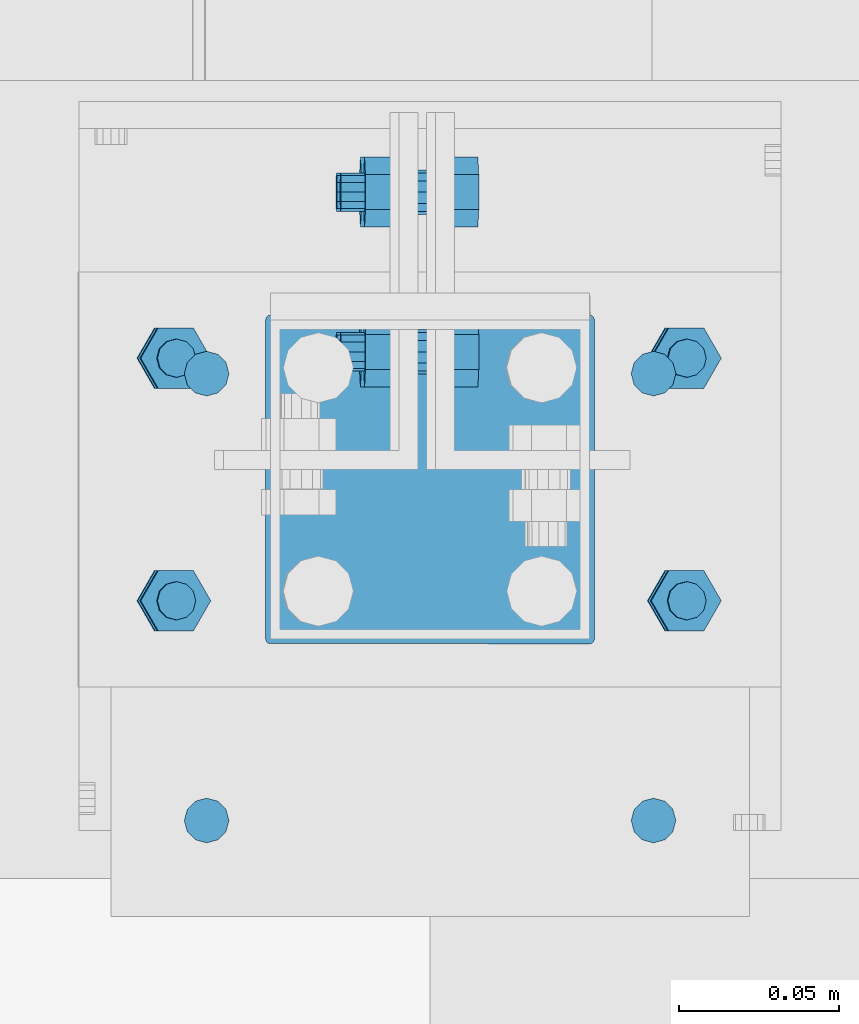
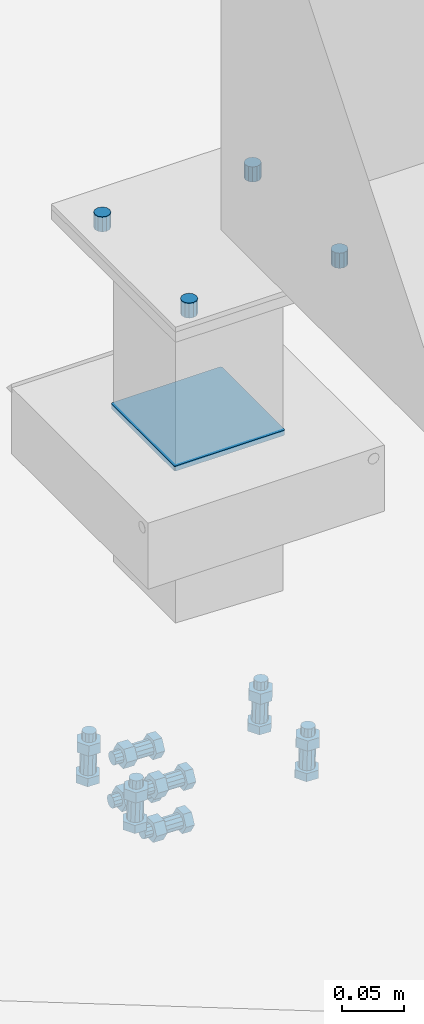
# One storey, part 368 of 3134: 4 mechanical fasteners, 3 elements without a shape of their own.
"""IFC2X3 building model written with IfcOpenShell, lengths in millimetres."""

from ifc_helpers import new_model, si_unit, frame, origin_with_axes, place, context, subcontext, project, spatial, faceted_brep, source, transform, mapped, material, type_object, element, aggregate, save


model = new_model("IFC2X3")

# Units and contexts
model_context = context("Model", 3, precision=1e-05, world=origin_with_axes())
body_context = subcontext(model_context, "Body", "Model", "MODEL_VIEW")
ifc_project = project(units=[si_unit("LENGTHUNIT", "METRE", prefix="MILLI"), si_unit("AREAUNIT", "SQUARE_METRE"), si_unit("VOLUMEUNIT", "CUBIC_METRE"), si_unit("MASSUNIT", "GRAM", prefix="KILO"), si_unit("TIMEUNIT", "SECOND"), si_unit("PLANEANGLEUNIT", "RADIAN"), si_unit("SOLIDANGLEUNIT", "STERADIAN"), si_unit("THERMODYNAMICTEMPERATUREUNIT", "DEGREE_CELSIUS"), si_unit("LUMINOUSINTENSITYUNIT", "LUMEN")], contexts=[model_context])

# Site, building, storey
site_placement = place(None, origin_with_axes())
site = spatial("IfcSite", under=ifc_project, at=site_placement, CompositionType="ELEMENT")
building_placement = place(site_placement, origin_with_axes())
building = spatial("IfcBuilding", under=site, at=building_placement, Name="Undefined", CompositionType="ELEMENT")
storey_placement = place(building_placement, origin_with_axes())
storey = spatial("IfcBuildingStorey", under=building, at=storey_placement, Name="Undefined", CompositionType="ELEMENT", Elevation=0.0)

# Assembly, mechanical fastener
assembly_1_placement = place(storey_placement, origin_with_axes())
assembly_1 = element("IfcElementAssembly", 1, at=assembly_1_placement, inside=storey, AssemblyPlace="NOTDEFINED", PredefinedType="RIGID_FRAME")
ifc_material_1 = material(Name="6.8")
mechanical_fastener_type = type_object("IfcMechanicalFastenerType", Name="Bolt assembly")
shared_shape_1 = source(origin_with_axes(), body_context, "Body", "Brep", [
    faceted_brep([(51.5, 1.36424205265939e-12, 50.0), (51.3858192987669, 1.36424205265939e-12, 50.5740251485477), (51.0606601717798, 1.36424205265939e-12, 51.0606601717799), (50.5740251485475, 1.36424205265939e-12, 51.385819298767), (-50.0000000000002, 1.36424205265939e-12, 51.5), (-50.7500000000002, 1.36424205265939e-12, 51.2990381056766), (-51.2990381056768, 1.36424205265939e-12, 50.7499999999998), (-51.5, 1.36424205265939e-12, 49.9999999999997), (-51.5, 1.36424205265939e-12, -50.0000000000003), (-51.2990381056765, 1.36424205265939e-12, -50.7500000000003), (-50.7499999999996, 1.36424205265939e-12, -51.2990381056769), (-49.9999999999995, 1.36424205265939e-12, -51.5), (50.0000000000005, 1.36424205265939e-12, -51.5), (50.7500000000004, 1.36424205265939e-12, -51.2990381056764), (51.2990381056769, 1.36424205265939e-12, -50.7499999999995), (51.5, 1.36424205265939e-12, -49.9999999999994), (51.5, 5.10000000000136, -49.9999999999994), (51.2990381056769, 5.10000000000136, -50.7499999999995), (50.7500000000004, 5.10000000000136, -51.2990381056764), (50.0000000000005, 5.10000000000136, -51.5), (-49.9999999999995, 5.10000000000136, -51.5), (-50.7499999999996, 5.10000000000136, -51.2990381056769), (-51.2990381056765, 5.10000000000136, -50.7500000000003), (-51.5, 5.10000000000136, -50.0000000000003), (-51.5, 5.10000000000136, 49.9999999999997), (-51.2990381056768, 5.10000000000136, 50.7499999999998), (-50.7500000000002, 5.10000000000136, 51.2990381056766), (-50.0000000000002, 5.10000000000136, 51.5), (50.5740251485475, 5.10000000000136, 51.385819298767), (51.0606601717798, 5.10000000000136, 51.0606601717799), (51.3858192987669, 5.10000000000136, 50.5740251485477), (51.5, 5.10000000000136, 50.0)], [[[0, 1, 2, 3, 4, 5, 6, 7, 8, 9, 10, 11, 12, 13, 14, 15]], [[16, 17, 18, 19, 20, 21, 22, 23, 24, 25, 26, 27, 28, 29, 30, 31]], [[0, 31, 30, 1]], [[1, 30, 29, 2]], [[2, 29, 28, 3]], [[3, 28, 27, 4]], [[4, 27, 26, 5]], [[5, 26, 25, 6]], [[6, 25, 24, 7]], [[7, 24, 23, 8]], [[8, 23, 22, 9]], [[9, 22, 21, 10]], [[10, 21, 20, 11]], [[11, 20, 19, 12]], [[12, 19, 18, 13]], [[13, 18, 17, 14]], [[14, 17, 16, 15]], [[15, 16, 31, 0]]]),
])
mechanical_fastener_1_placement = place(assembly_1_placement, frame((73830.0, 19800.0, 4274.22), z_axis=(0.0, -1.0, 0.0), x_axis=(-1.0, 0.0, 0.0)))
mechanical_fastener_1 = element("IfcMechanicalFastener", 2, at=mechanical_fastener_1_placement, type_object=mechanical_fastener_type, material=ifc_material_1, Name="Bolt assembly", NominalDiameter=10.0, NominalLength=5.0, context=body_context, shape_type="MappedRepresentation", body=[
    mapped(shared_shape_1, transform((0.0, 0.0, 0.0))),
])

assembly_2_placement = place(storey_placement, origin_with_axes())
assembly_2 = element("IfcElementAssembly", 3, at=assembly_2_placement, inside=storey, AssemblyPlace="NOTDEFINED", PredefinedType="RIGID_FRAME")
ifc_material_2 = material(Name="8.8")
shared_shape_2 = source(origin_with_axes(), body_context, "Body", "Brep", [
    faceted_brep([(10.9696551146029, -14.250187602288, 0.0), (5.48482755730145, -14.250187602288, 9.5), (-5.48482755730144, -14.250187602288, 9.5), (-10.9696551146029, -14.250187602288, 1.34339530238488e-15), (-5.48482755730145, -14.250187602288, -9.5), (5.48482755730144, -14.250187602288, -9.50000000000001), (5.48482755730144, -6.25018760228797, -9.50000000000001), (-5.48482755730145, -6.25018760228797, -9.5), (-10.9696551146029, -6.25018760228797, 1.34339530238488e-15), (-5.48482755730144, -6.25018760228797, 9.5), (5.48482755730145, -6.25018760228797, 9.5), (10.9696551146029, -6.25018760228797, 0.0), (6.0, -6.25018760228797, 0.0), (5.19615242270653, -6.25018760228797, 3.00000000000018), (2.99999999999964, -6.25018760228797, 5.19615242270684), (-6.21801588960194e-13, -6.25018760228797, 6.0), (-3.00000000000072, -6.25018760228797, 5.19615242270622), (-5.19615242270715, -6.25018760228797, 2.9999999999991), (-6.0, -6.25018760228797, -1.24360317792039e-12), (-5.19615242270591, -6.25018760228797, -3.00000000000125), (-2.99999999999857, -6.25018760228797, -5.19615242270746), (1.85874342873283e-12, -6.25018760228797, -6.0), (3.00000000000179, -6.25018760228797, -5.1961524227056), (5.19615242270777, -6.25018760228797, -2.99999999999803), (5.19615242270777, 28.749812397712, -2.99999999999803), (3.00000000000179, 28.749812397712, -5.1961524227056), (1.85874342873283e-12, 28.749812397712, -6.0), (-2.99999999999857, 28.749812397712, -5.19615242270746), (-5.19615242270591, 28.749812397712, -3.00000000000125), (-6.0, 28.749812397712, -1.24360317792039e-12), (-5.19615242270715, 28.749812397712, 2.9999999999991), (-3.00000000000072, 28.749812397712, 5.19615242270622), (-6.21801588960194e-13, 28.749812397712, 6.0), (2.99999999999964, 28.749812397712, 5.19615242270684), (5.19615242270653, 28.749812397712, 3.00000000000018), (6.0, 28.749812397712, 0.0), (10.9696551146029, 11.2575524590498, 0.0), (5.48482755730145, 11.2575524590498, 9.5), (-5.48482755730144, 11.2575524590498, 9.5), (-10.9696551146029, 11.2575524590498, 1.34339530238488e-15), (-5.48482755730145, 11.2575524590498, -9.5), (5.48482755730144, 11.2575524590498, -9.50000000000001), (5.48482755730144, 21.2575524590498, -9.50000000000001), (-5.48482755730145, 21.2575524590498, -9.5), (-10.9696551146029, 21.2575524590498, 1.34339530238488e-15), (-5.48482755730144, 21.2575524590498, 9.5), (5.48482755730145, 21.2575524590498, 9.5), (10.9696551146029, 21.2575524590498, 0.0)], [[[0, 1, 2, 3, 4, 5]], [[6, 7, 8, 9, 10, 11]], [[0, 11, 10, 1]], [[1, 10, 9, 2]], [[2, 9, 8, 3]], [[3, 8, 7, 4]], [[4, 7, 6, 5]], [[5, 6, 11, 0]], [[12, 13, 14, 15, 16, 17, 18, 19, 20, 21, 22, 23]], [[24, 25, 26, 27, 28, 29, 30, 31, 32, 33, 34, 35]], [[12, 35, 34, 13]], [[13, 34, 33, 14]], [[14, 33, 32, 15]], [[15, 32, 31, 16]], [[16, 31, 30, 17]], [[17, 30, 29, 18]], [[18, 29, 28, 19]], [[19, 28, 27, 20]], [[20, 27, 26, 21]], [[21, 26, 25, 22]], [[22, 25, 24, 23]], [[23, 24, 35, 12]], [[36, 37, 38, 39, 40, 41]], [[42, 43, 44, 45, 46, 47]], [[36, 47, 46, 37]], [[37, 46, 45, 38]], [[38, 45, 44, 39]], [[39, 44, 43, 40]], [[40, 43, 42, 41]], [[41, 42, 47, 36]]]),
    faceted_brep([(7.0, 5.15755245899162, 0.0), (6.06217782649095, 5.15755245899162, 3.50000000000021), (3.49999999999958, 5.15755245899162, 6.06217782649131), (-7.25435187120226e-13, 5.15755245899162, 7.0), (-3.50000000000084, 5.15755245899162, 6.06217782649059), (-6.06217782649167, 5.15755245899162, 3.49999999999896), (-7.0, 5.15755245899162, -1.45087037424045e-12), (-6.06217782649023, 5.15755245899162, -3.50000000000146), (-3.49999999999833, 5.15755245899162, -6.06217782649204), (2.1685340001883e-12, 5.15755245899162, -7.0), (3.50000000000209, 5.15755245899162, -6.06217782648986), (6.0621778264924, 5.15755245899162, -3.4999999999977), (6.0621778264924, 11.2575524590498, -3.4999999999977), (3.50000000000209, 11.2575524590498, -6.06217782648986), (2.1685340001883e-12, 11.2575524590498, -7.0), (-3.49999999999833, 11.2575524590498, -6.06217782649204), (-6.06217782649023, 11.2575524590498, -3.50000000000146), (-7.0, 11.2575524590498, -1.45087037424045e-12), (-6.06217782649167, 11.2575524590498, 3.49999999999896), (-3.50000000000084, 11.2575524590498, 6.06217782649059), (-7.25435187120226e-13, 11.2575524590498, 7.0), (3.49999999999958, 11.2575524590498, 6.06217782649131), (6.06217782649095, 11.2575524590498, 3.50000000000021), (7.0, 11.2575524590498, 0.0), (7.0, -6.15018760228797, 0.0), (6.06217782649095, -6.15018760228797, 3.50000000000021), (3.49999999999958, -6.15018760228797, 6.06217782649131), (-7.25435187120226e-13, -6.15018760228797, 7.0), (-3.50000000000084, -6.15018760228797, 6.06217782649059), (-6.06217782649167, -6.15018760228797, 3.49999999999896), (-7.0, -6.15018760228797, -1.45087037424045e-12), (-6.06217782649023, -6.15018760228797, -3.50000000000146), (-3.49999999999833, -6.15018760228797, -6.06217782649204), (2.1685340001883e-12, -6.15018760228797, -7.0), (3.50000000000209, -6.15018760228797, -6.06217782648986), (6.0621778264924, -6.15018760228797, -3.4999999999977), (6.0621778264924, -0.150187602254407, -3.4999999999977), (3.50000000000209, -0.150187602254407, -6.06217782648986), (2.1685340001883e-12, -0.150187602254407, -7.0), (-3.49999999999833, -0.150187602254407, -6.06217782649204), (-6.06217782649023, -0.150187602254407, -3.50000000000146), (-7.0, -0.150187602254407, -1.45087037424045e-12), (-6.06217782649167, -0.150187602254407, 3.49999999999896), (-3.50000000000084, -0.150187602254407, 6.06217782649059), (-7.25435187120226e-13, -0.150187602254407, 7.0), (3.49999999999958, -0.150187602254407, 6.06217782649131), (6.06217782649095, -0.150187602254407, 3.50000000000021), (7.0, -0.150187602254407, 0.0), (7.0, -0.244833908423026, 0.0), (6.06217782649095, -0.244833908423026, 3.50000000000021), (3.49999999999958, -0.244833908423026, 6.06217782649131), (-7.25435187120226e-13, -0.244833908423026, 7.0), (-3.50000000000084, -0.244833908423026, 6.06217782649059), (-6.06217782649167, -0.244833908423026, 3.49999999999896), (-7.0, -0.244833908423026, -1.45087037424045e-12), (-6.06217782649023, -0.244833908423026, -3.50000000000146), (-3.49999999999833, -0.244833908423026, -6.06217782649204), (2.1685340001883e-12, -0.244833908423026, -7.0), (3.50000000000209, -0.244833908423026, -6.06217782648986), (6.0621778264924, -0.244833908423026, -3.4999999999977), (6.0621778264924, 5.25516609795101, -3.4999999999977), (3.50000000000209, 5.25516609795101, -6.06217782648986), (2.1685340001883e-12, 5.25516609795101, -7.0), (-3.49999999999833, 5.25516609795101, -6.06217782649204), (-6.06217782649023, 5.25516609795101, -3.50000000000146), (-7.0, 5.25516609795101, -1.45087037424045e-12), (-6.06217782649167, 5.25516609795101, 3.49999999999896), (-3.50000000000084, 5.25516609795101, 6.06217782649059), (-7.25435187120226e-13, 5.25516609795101, 7.0), (3.49999999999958, 5.25516609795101, 6.06217782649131), (6.06217782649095, 5.25516609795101, 3.50000000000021), (7.0, 5.25516609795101, 0.0)], [[[0, 1, 2, 3, 4, 5, 6, 7, 8, 9, 10, 11]], [[12, 13, 14, 15, 16, 17, 18, 19, 20, 21, 22, 23]], [[0, 23, 22, 1]], [[1, 22, 21, 2]], [[2, 21, 20, 3]], [[3, 20, 19, 4]], [[4, 19, 18, 5]], [[5, 18, 17, 6]], [[6, 17, 16, 7]], [[7, 16, 15, 8]], [[8, 15, 14, 9]], [[9, 14, 13, 10]], [[10, 13, 12, 11]], [[11, 12, 23, 0]], [[24, 25, 26, 27, 28, 29, 30, 31, 32, 33, 34, 35]], [[36, 37, 38, 39, 40, 41, 42, 43, 44, 45, 46, 47]], [[24, 47, 46, 25]], [[25, 46, 45, 26]], [[26, 45, 44, 27]], [[27, 44, 43, 28]], [[28, 43, 42, 29]], [[29, 42, 41, 30]], [[30, 41, 40, 31]], [[31, 40, 39, 32]], [[32, 39, 38, 33]], [[33, 38, 37, 34]], [[34, 37, 36, 35]], [[35, 36, 47, 24]], [[48, 49, 50, 51, 52, 53, 54, 55, 56, 57, 58, 59]], [[60, 61, 62, 63, 64, 65, 66, 67, 68, 69, 70, 71]], [[48, 71, 70, 49]], [[49, 70, 69, 50]], [[50, 69, 68, 51]], [[51, 68, 67, 52]], [[52, 67, 66, 53]], [[53, 66, 65, 54]], [[54, 65, 64, 55]], [[55, 64, 63, 56]], [[56, 63, 62, 57]], [[57, 62, 61, 58]], [[58, 61, 60, 59]], [[59, 60, 71, 48]]]),
])
mechanical_fastener_2_placement = place(assembly_2_placement, frame((73830.0752897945, 19840.01, 3871.04754926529), z_axis=(0.0309396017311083, 0.0, 0.999521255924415), x_axis=(0.0, 1.0, 0.0)))
mechanical_fastener_2 = element("IfcMechanicalFastener", 4, at=mechanical_fastener_2_placement, type_object=mechanical_fastener_type, material=ifc_material_2, Name="Bolt assembly", NominalDiameter=12.0, NominalLength=35.0, context=body_context, shape_type="MappedRepresentation", body=[
    mapped(shared_shape_2, transform((0.0, 0.0, -21.0))),
    mapped(shared_shape_2, transform((50.0, -1.01863406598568e-10, -20.9999999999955))),
    mapped(shared_shape_2, transform((0.0, 0.0, 21.0))),
    mapped(shared_shape_2, transform((50.0, 1.30967237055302e-10, 20.9999999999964))),
])
aggregate(assembly_2, [mechanical_fastener_2])

# Mechanical fastener
shared_shape_3 = source(origin_with_axes(), body_context, "Body", "Brep", [
    faceted_brep([(7.0, -4.90000000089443, 0.0), (6.06217782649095, -4.90000000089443, 3.50000000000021), (3.49999999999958, -4.90000000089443, 6.06217782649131), (-7.25435187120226e-13, -4.90000000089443, 7.0), (-3.50000000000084, -4.90000000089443, 6.06217782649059), (-6.06217782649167, -4.90000000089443, 3.49999999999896), (-7.0, -4.90000000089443, -1.45087037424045e-12), (-6.06217782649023, -4.90000000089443, -3.50000000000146), (-3.49999999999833, -4.90000000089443, -6.06217782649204), (2.1685340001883e-12, -4.90000000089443, -7.0), (3.50000000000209, -4.90000000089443, -6.06217782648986), (6.0621778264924, -4.90000000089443, -3.4999999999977), (6.0621778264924, 0.0999999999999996, -3.4999999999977), (3.50000000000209, 0.0999999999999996, -6.06217782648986), (2.1685340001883e-12, 0.0999999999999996, -7.0), (-3.49999999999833, 0.0999999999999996, -6.06217782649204), (-6.06217782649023, 0.0999999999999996, -3.50000000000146), (-7.0, 0.0999999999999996, -1.45087037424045e-12), (-6.06217782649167, 0.0999999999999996, 3.49999999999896), (-3.50000000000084, 0.0999999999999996, 6.06217782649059), (-7.25435187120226e-13, 0.0999999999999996, 7.0), (3.49999999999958, 0.0999999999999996, 6.06217782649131), (6.06217782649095, 0.0999999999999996, 3.50000000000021), (7.0, 0.0999999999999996, 0.0), (7.0, -0.1, 0.0), (6.06217782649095, -0.1, 3.50000000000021), (3.49999999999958, -0.1, 6.06217782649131), (-7.25435187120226e-13, -0.1, 7.0), (-3.50000000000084, -0.1, 6.06217782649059), (-6.06217782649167, -0.1, 3.49999999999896), (-7.0, -0.1, -1.45087037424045e-12), (-6.06217782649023, -0.1, -3.50000000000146), (-3.49999999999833, -0.1, -6.06217782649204), (2.1685340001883e-12, -0.1, -7.0), (3.50000000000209, -0.1, -6.06217782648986), (6.0621778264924, -0.1, -3.4999999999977), (6.0621778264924, 10.0, -3.4999999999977), (3.50000000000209, 10.0, -6.06217782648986), (2.1685340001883e-12, 10.0, -7.0), (-3.49999999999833, 10.0, -6.06217782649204), (-6.06217782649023, 10.0, -3.50000000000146), (-7.0, 10.0, -1.45087037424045e-12), (-6.06217782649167, 10.0, 3.49999999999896), (-3.50000000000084, 10.0, 6.06217782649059), (-7.25435187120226e-13, 10.0, 7.0), (3.49999999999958, 10.0, 6.06217782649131), (6.06217782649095, 10.0, 3.50000000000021), (7.0, 10.0, 0.0)], [[[0, 1, 2, 3, 4, 5, 6, 7, 8, 9, 10, 11]], [[12, 13, 14, 15, 16, 17, 18, 19, 20, 21, 22, 23]], [[0, 23, 22, 1]], [[1, 22, 21, 2]], [[2, 21, 20, 3]], [[3, 20, 19, 4]], [[4, 19, 18, 5]], [[5, 18, 17, 6]], [[6, 17, 16, 7]], [[7, 16, 15, 8]], [[8, 15, 14, 9]], [[9, 14, 13, 10]], [[10, 13, 12, 11]], [[11, 12, 23, 0]], [[24, 25, 26, 27, 28, 29, 30, 31, 32, 33, 34, 35]], [[36, 37, 38, 39, 40, 41, 42, 43, 44, 45, 46, 47]], [[24, 47, 46, 25]], [[25, 46, 45, 26]], [[26, 45, 44, 27]], [[27, 44, 43, 28]], [[28, 43, 42, 29]], [[29, 42, 41, 30]], [[30, 41, 40, 31]], [[31, 40, 39, 32]], [[32, 39, 38, 33]], [[33, 38, 37, 34]], [[34, 37, 36, 35]], [[35, 36, 47, 24]]]),
])
mechanical_fastener_3_placement = place(assembly_1_placement, frame((73830.0, 19693.16, 4475.0), z_axis=(-1.0, 0.0, 0.0), x_axis=(0.0, 1.0, 0.0)))
mechanical_fastener_3 = element("IfcMechanicalFastener", 5, at=mechanical_fastener_3_placement, type_object=mechanical_fastener_type, material=ifc_material_2, Name="Bolt assembly", NominalDiameter=12.0, NominalLength=15.0, context=body_context, shape_type="MappedRepresentation", body=[
    mapped(shared_shape_3, transform((0.0, 0.0, -70.0))),
    mapped(shared_shape_3, transform((140.0, 0.0, -70.0))),
    mapped(shared_shape_3, transform((0.0, 0.0, 70.0))),
    mapped(shared_shape_3, transform((140.0, 0.0, 70.0))),
])

aggregate(assembly_1, [mechanical_fastener_1, mechanical_fastener_3])

# Assembly, mechanical fastener
assembly_3_placement = place(storey_placement, origin_with_axes())
assembly_3 = element("IfcElementAssembly", 6, at=assembly_3_placement, inside=storey, AssemblyPlace="NOTDEFINED", PredefinedType="RIGID_FRAME")
shared_shape_4 = source(origin_with_axes(), body_context, "Body", "Brep", [
    faceted_brep([(10.9696551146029, -29.8000001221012, 0.0), (5.48482755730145, -29.8000001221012, 9.5), (-5.48482755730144, -29.8000001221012, 9.5), (-10.9696551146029, -29.8000001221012, 1.34339530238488e-15), (-5.48482755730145, -29.8000001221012, -9.5), (5.48482755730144, -29.8000001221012, -9.50000000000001), (5.48482755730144, -21.8000001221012, -9.50000000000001), (-5.48482755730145, -21.8000001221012, -9.5), (-10.9696551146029, -21.8000001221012, 1.34339530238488e-15), (-5.48482755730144, -21.8000001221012, 9.5), (5.48482755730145, -21.8000001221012, 9.5), (10.9696551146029, -21.8000001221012, 0.0), (6.0, -21.8000001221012, 0.0), (5.19615242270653, -21.8000001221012, 3.00000000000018), (2.99999999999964, -21.8000001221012, 5.19615242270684), (-6.21801588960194e-13, -21.8000001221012, 6.0), (-3.00000000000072, -21.8000001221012, 5.19615242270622), (-5.19615242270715, -21.8000001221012, 2.9999999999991), (-6.0, -21.8000001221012, -1.24360317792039e-12), (-5.19615242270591, -21.8000001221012, -3.00000000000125), (-2.99999999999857, -21.8000001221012, -5.19615242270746), (1.85874342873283e-12, -21.8000001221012, -6.0), (3.00000000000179, -21.8000001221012, -5.1961524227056), (5.19615242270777, -21.8000001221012, -2.99999999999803), (5.19615242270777, 18.1999998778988, -2.99999999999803), (3.00000000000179, 18.1999998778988, -5.1961524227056), (1.85874342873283e-12, 18.1999998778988, -6.0), (-2.99999999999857, 18.1999998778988, -5.19615242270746), (-5.19615242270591, 18.1999998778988, -3.00000000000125), (-6.0, 18.1999998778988, -1.24360317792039e-12), (-5.19615242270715, 18.1999998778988, 2.9999999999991), (-3.00000000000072, 18.1999998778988, 5.19615242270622), (-6.21801588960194e-13, 18.1999998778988, 6.0), (2.99999999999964, 18.1999998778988, 5.19615242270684), (5.19615242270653, 18.1999998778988, 3.00000000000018), (6.0, 18.1999998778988, 0.0), (10.9696551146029, 0.0, 0.0), (5.48482755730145, 0.0, 9.5), (-5.48482755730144, 0.0, 9.5), (-10.9696551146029, 0.0, 1.34339530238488e-15), (-5.48482755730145, 0.0, -9.5), (5.48482755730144, 0.0, -9.50000000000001), (5.48482755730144, 10.0, -9.50000000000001), (-5.48482755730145, 10.0, -9.5), (-10.9696551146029, 10.0, 1.34339530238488e-15), (-5.48482755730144, 10.0, 9.5), (5.48482755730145, 10.0, 9.5), (10.9696551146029, 10.0, 0.0)], [[[0, 1, 2, 3, 4, 5]], [[6, 7, 8, 9, 10, 11]], [[0, 11, 10, 1]], [[1, 10, 9, 2]], [[2, 9, 8, 3]], [[3, 8, 7, 4]], [[4, 7, 6, 5]], [[5, 6, 11, 0]], [[12, 13, 14, 15, 16, 17, 18, 19, 20, 21, 22, 23]], [[24, 25, 26, 27, 28, 29, 30, 31, 32, 33, 34, 35]], [[12, 35, 34, 13]], [[13, 34, 33, 14]], [[14, 33, 32, 15]], [[15, 32, 31, 16]], [[16, 31, 30, 17]], [[17, 30, 29, 18]], [[18, 29, 28, 19]], [[19, 28, 27, 20]], [[20, 27, 26, 21]], [[21, 26, 25, 22]], [[22, 25, 24, 23]], [[23, 24, 35, 12]], [[36, 37, 38, 39, 40, 41]], [[42, 43, 44, 45, 46, 47]], [[36, 47, 46, 37]], [[37, 46, 45, 38]], [[38, 45, 44, 39]], [[39, 44, 43, 40]], [[40, 43, 42, 41]], [[41, 42, 47, 36]]]),
    faceted_brep([(7.0, -10.0999999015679, 0.0), (6.06217782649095, -10.0999999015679, 3.50000000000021), (3.49999999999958, -10.0999999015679, 6.06217782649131), (-7.25435187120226e-13, -10.0999999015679, 7.0), (-3.50000000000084, -10.0999999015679, 6.06217782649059), (-6.06217782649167, -10.0999999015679, 3.49999999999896), (-7.0, -10.0999999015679, -1.45087037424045e-12), (-6.06217782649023, -10.0999999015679, -3.50000000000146), (-3.49999999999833, -10.0999999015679, -6.06217782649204), (2.1685340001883e-12, -10.0999999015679, -7.0), (3.50000000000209, -10.0999999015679, -6.06217782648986), (6.0621778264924, -10.0999999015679, -3.4999999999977), (6.0621778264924, 0.0, -3.4999999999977), (3.50000000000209, 0.0, -6.06217782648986), (2.1685340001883e-12, 0.0, -7.0), (-3.49999999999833, 0.0, -6.06217782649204), (-6.06217782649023, 0.0, -3.50000000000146), (-7.0, 0.0, -1.45087037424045e-12), (-6.06217782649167, 0.0, 3.49999999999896), (-3.50000000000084, 0.0, 6.06217782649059), (-7.25435187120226e-13, 0.0, 7.0), (3.49999999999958, 0.0, 6.06217782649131), (6.06217782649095, 0.0, 3.50000000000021), (7.0, 0.0, 0.0), (7.0, -11.9999999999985, 0.0), (6.06217782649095, -11.9999999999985, 3.50000000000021), (3.49999999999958, -11.9999999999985, 6.06217782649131), (-7.25435187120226e-13, -11.9999999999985, 7.0), (-3.50000000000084, -11.9999999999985, 6.06217782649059), (-6.06217782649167, -11.9999999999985, 3.49999999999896), (-7.0, -11.9999999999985, -1.45087037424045e-12), (-6.06217782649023, -11.9999999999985, -3.50000000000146), (-3.49999999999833, -11.9999999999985, -6.06217782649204), (2.1685340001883e-12, -11.9999999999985, -7.0), (3.50000000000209, -11.9999999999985, -6.06217782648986), (6.0621778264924, -11.9999999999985, -3.4999999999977), (6.0621778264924, -10.0, -3.4999999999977), (3.50000000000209, -10.0, -6.06217782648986), (2.1685340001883e-12, -10.0, -7.0), (-3.49999999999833, -10.0, -6.06217782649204), (-6.06217782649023, -10.0, -3.50000000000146), (-7.0, -10.0, -1.45087037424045e-12), (-6.06217782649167, -10.0, 3.49999999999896), (-3.50000000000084, -10.0, 6.06217782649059), (-7.25435187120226e-13, -10.0, 7.0), (3.49999999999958, -10.0, 6.06217782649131), (6.06217782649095, -10.0, 3.50000000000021), (7.0, -10.0, 0.0), (7.0, -21.7000001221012, 0.0), (6.06217782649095, -21.7000001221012, 3.50000000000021), (3.49999999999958, -21.7000001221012, 6.06217782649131), (-7.25435187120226e-13, -21.7000001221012, 7.0), (-3.50000000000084, -21.7000001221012, 6.06217782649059), (-6.06217782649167, -21.7000001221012, 3.49999999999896), (-7.0, -21.7000001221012, -1.45087037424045e-12), (-6.06217782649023, -21.7000001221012, -3.50000000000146), (-3.49999999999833, -21.7000001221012, -6.06217782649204), (2.1685340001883e-12, -21.7000001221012, -7.0), (3.50000000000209, -21.7000001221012, -6.06217782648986), (6.0621778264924, -21.7000001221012, -3.4999999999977), (6.0621778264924, -11.9, -3.4999999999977), (3.50000000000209, -11.9, -6.06217782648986), (2.1685340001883e-12, -11.9, -7.0), (-3.49999999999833, -11.9, -6.06217782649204), (-6.06217782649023, -11.9, -3.50000000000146), (-7.0, -11.9, -1.45087037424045e-12), (-6.06217782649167, -11.9, 3.49999999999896), (-3.50000000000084, -11.9, 6.06217782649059), (-7.25435187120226e-13, -11.9, 7.0), (3.49999999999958, -11.9, 6.06217782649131), (6.06217782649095, -11.9, 3.50000000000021), (7.0, -11.9, 0.0)], [[[0, 1, 2, 3, 4, 5, 6, 7, 8, 9, 10, 11]], [[12, 13, 14, 15, 16, 17, 18, 19, 20, 21, 22, 23]], [[0, 23, 22, 1]], [[1, 22, 21, 2]], [[2, 21, 20, 3]], [[3, 20, 19, 4]], [[4, 19, 18, 5]], [[5, 18, 17, 6]], [[6, 17, 16, 7]], [[7, 16, 15, 8]], [[8, 15, 14, 9]], [[9, 14, 13, 10]], [[10, 13, 12, 11]], [[11, 12, 23, 0]], [[24, 25, 26, 27, 28, 29, 30, 31, 32, 33, 34, 35]], [[36, 37, 38, 39, 40, 41, 42, 43, 44, 45, 46, 47]], [[24, 47, 46, 25]], [[25, 46, 45, 26]], [[26, 45, 44, 27]], [[27, 44, 43, 28]], [[28, 43, 42, 29]], [[29, 42, 41, 30]], [[30, 41, 40, 31]], [[31, 40, 39, 32]], [[32, 39, 38, 33]], [[33, 38, 37, 34]], [[34, 37, 36, 35]], [[35, 36, 47, 24]], [[48, 49, 50, 51, 52, 53, 54, 55, 56, 57, 58, 59]], [[60, 61, 62, 63, 64, 65, 66, 67, 68, 69, 70, 71]], [[48, 71, 70, 49]], [[49, 70, 69, 50]], [[50, 69, 68, 51]], [[51, 68, 67, 52]], [[52, 67, 66, 53]], [[53, 66, 65, 54]], [[54, 65, 64, 55]], [[55, 64, 63, 56]], [[56, 63, 62, 57]], [[57, 62, 61, 58]], [[58, 61, 60, 59]], [[59, 60, 71, 48]]]),
])
mechanical_fastener_4_placement = place(assembly_3_placement, frame((73750.0384122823, 19800.0, 3952.01960054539), z_axis=(0.0, -1.0, 0.0), x_axis=(0.999519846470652, 0.0, -0.0309851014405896)))
mechanical_fastener_4 = element("IfcMechanicalFastener", 7, at=mechanical_fastener_4_placement, type_object=mechanical_fastener_type, material=ifc_material_2, Name="Bolt assembly", NominalDiameter=12.0, NominalLength=40.0, context=body_context, shape_type="MappedRepresentation", body=[
    mapped(shared_shape_4, transform((0.0, 0.0, -38.0))),
    mapped(shared_shape_4, transform((159.99999999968, -2.71938915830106e-10, -38.0))),
    mapped(shared_shape_4, transform((0.0, 0.0, 38.0))),
    mapped(shared_shape_4, transform((159.99999999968, -2.71938915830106e-10, 38.0))),
])
aggregate(assembly_3, [mechanical_fastener_4])

save(model, "model.ifc")
